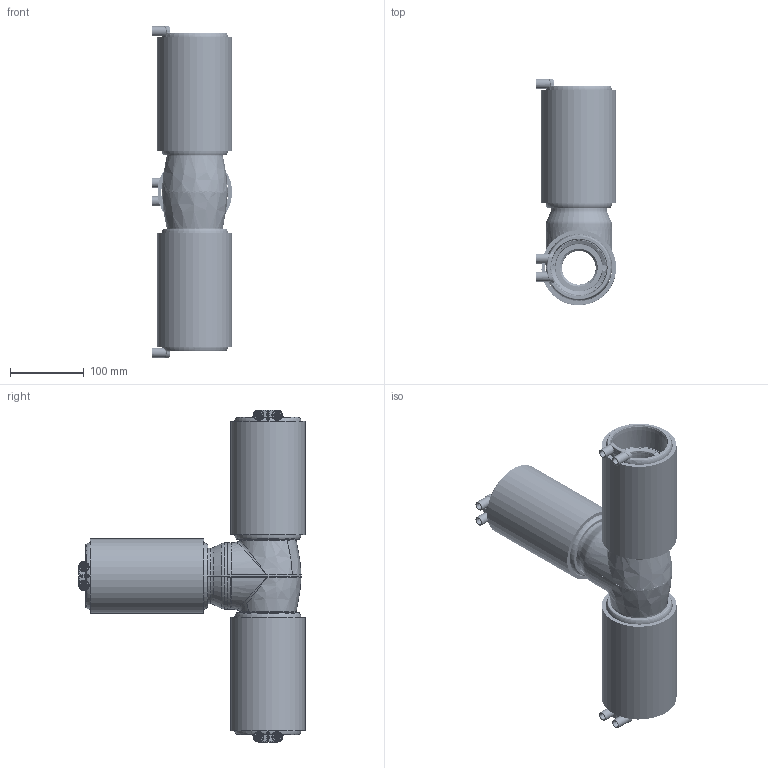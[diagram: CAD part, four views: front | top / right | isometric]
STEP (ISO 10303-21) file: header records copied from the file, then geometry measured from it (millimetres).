
FILE_DESCRIPTION (( 'STEP AP214' ), '1' );
FILE_NAME ('KP_28-75-63SCA.STEP', '2017-02-24T06:11:20', ( '' ), ( '' ), 'SwSTEP 2.0', 'SolidWorks 2017', '' );
FILE_SCHEMA (( 'AUTOMOTIVE_DESIGN' ));
Length unit declared in the file: millimetre
Products named in the file (1): KP_28-75-63SCA
Bounding box: 108.92 x 307.68 x 451.02 mm (x, y, z)
Volume: 2517756.1 mm3; surface area: 839748.8 mm2
Topology: 17 solids, 21 shells, 3065 faces, 7691 edges, 4665 vertices
Faces by surface type: cylinder 964, plane 654, torus 523, bspline 494, cone 292, sphere 138
Entity records: 149503 total; most frequent: CARTESIAN_POINT 69769, ORIENTED_EDGE 15076, DIRECTION 13275, EDGE_CURVE 7538, AXIS2_PLACEMENT_3D 5696, VERTEX_POINT 4593, EDGE_LOOP 3201, CIRCLE 3124
